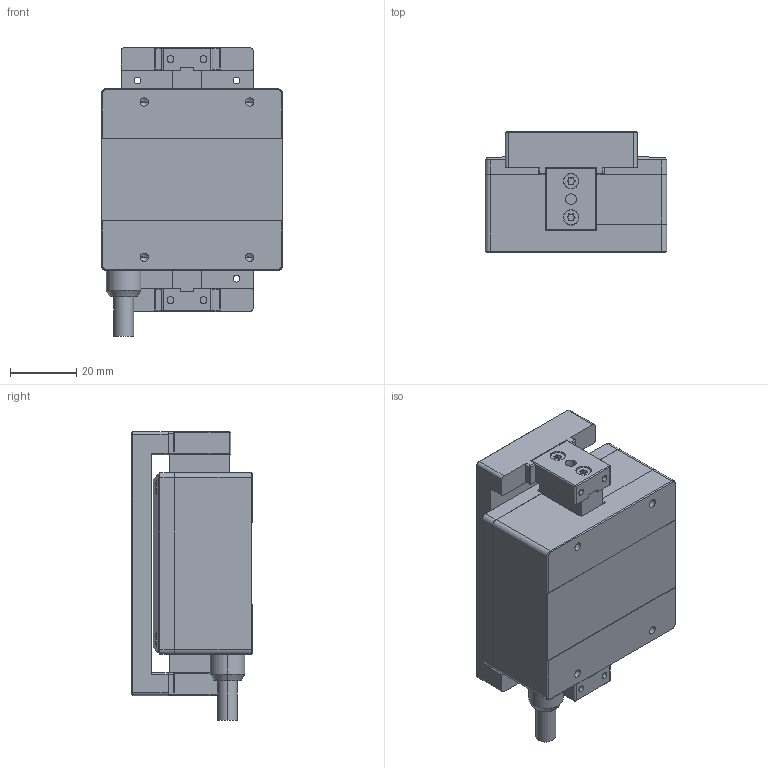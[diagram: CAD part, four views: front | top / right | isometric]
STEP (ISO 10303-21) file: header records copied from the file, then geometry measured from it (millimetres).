
FILE_DESCRIPTION (( 'STEP AP214' ), '1' );
FILE_NAME ('N31.50E-B1揤萇眻盄萇儂.STEP', '2023-04-08T01:01:17', ( 'Sky123.Org' ), ( 'Sky123.Org' ), 'SwSTEP 2.0', 'SolidWorks 2016', '' );
FILE_SCHEMA (( 'AUTOMOTIVE_DESIGN' ));
Length unit declared in the file: millimetre
Products named in the file (1): N31.50E-B1揤萇眻盄萇儂
Bounding box: 55 x 36.5 x 87.5 mm (x, y, z)
Volume: 114878.7 mm3; surface area: 42192.6 mm2
Topology: 19 solids, 19 shells, 709 faces, 1752 edges, 1093 vertices
Faces by surface type: cylinder 336, plane 261, cone 100, torus 8, bspline 4
Entity records: 29215 total; most frequent: CARTESIAN_POINT 3887, DIRECTION 3852, ORIENTED_EDGE 3444, EDGE_CURVE 1722, AXIS2_PLACEMENT_3D 1460, VERTEX_POINT 1093, LINE 932, VECTOR 932
